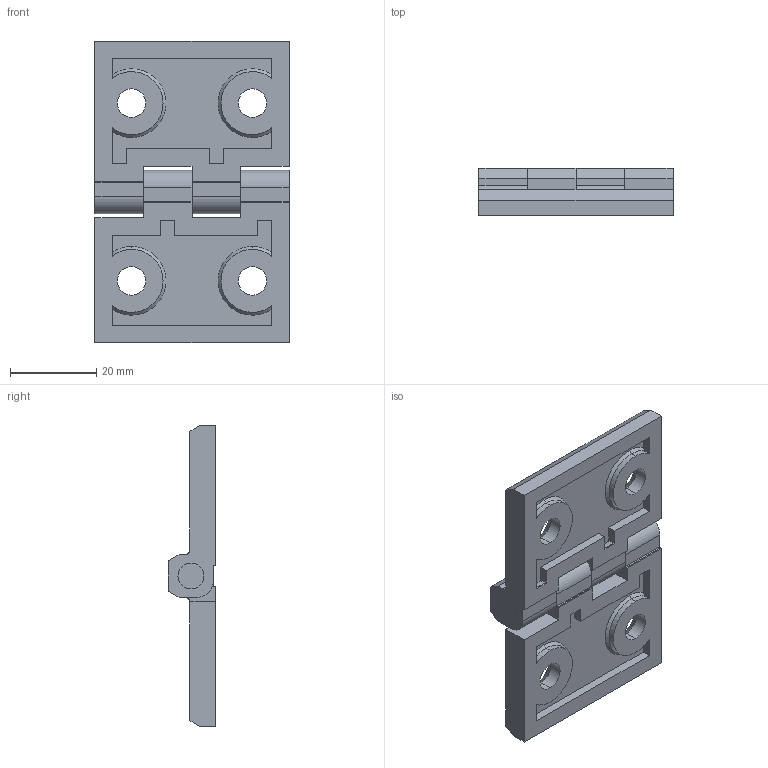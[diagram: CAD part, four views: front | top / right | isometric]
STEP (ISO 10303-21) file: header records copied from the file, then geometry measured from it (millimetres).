
FILE_DESCRIPTION (( 'STEP AP203' ), '1' );
FILE_NAME ('B01-4040.STEP', '2016-11-15T09:21:30', ( '' ), ( '' ), 'SwSTEP 2.0', 'SolidWorks 2013', '' );
FILE_SCHEMA (( 'CONFIG_CONTROL_DESIGN' ));
Length unit declared in the file: millimetre
Products named in the file (3): B01-4040; B01-40; B01-軸心
Assembly tree (3 placements, depth 2):
  B01-4040
    B01-40  x2
    B01-軸心
Bounding box: 45 x 11 x 70 mm (x, y, z)
Volume: 16908.7 mm3; surface area: 11271.7 mm2
Topology: 3 solids, 3 shells, 144 faces, 386 edges, 250 vertices
Faces by surface type: plane 78, cylinder 46, cone 20
Entity records: 2647 total; most frequent: CARTESIAN_POINT 415, DIRECTION 410, ORIENTED_EDGE 392, EDGE_CURVE 196, AXIS2_PLACEMENT_3D 138, LINE 134, VECTOR 134, VERTEX_POINT 127
